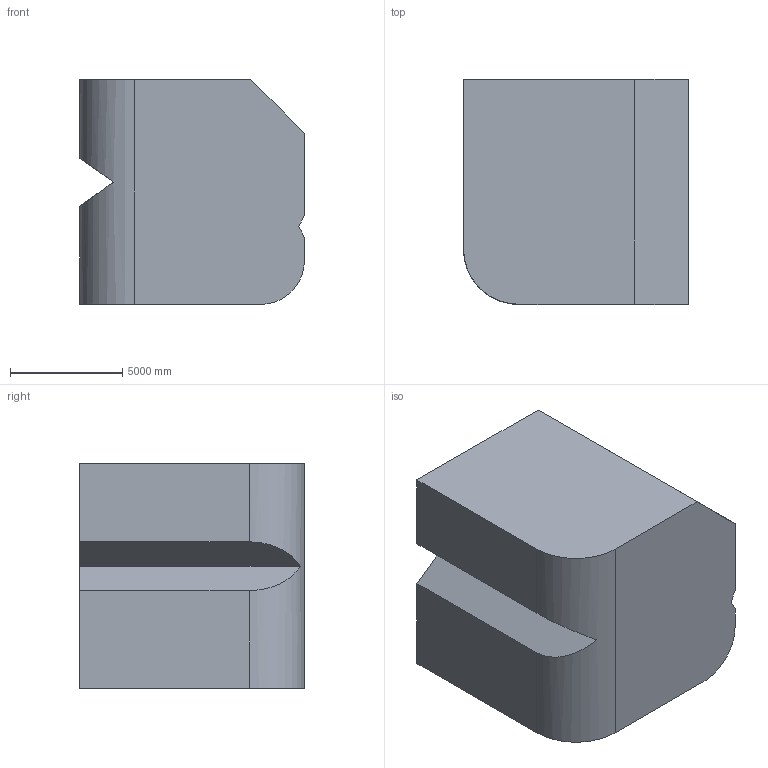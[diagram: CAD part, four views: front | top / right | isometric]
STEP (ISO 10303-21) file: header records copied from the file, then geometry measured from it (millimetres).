
FILE_DESCRIPTION (( 'STEP AP203' ), '1' );
FILE_NAME ('145.STEP', '2022-09-06T15:12:44', ( 'user' ), ( '' ), 'SwSTEP 2.0', 'SolidWorks 2021', '' );
FILE_SCHEMA (( 'CONFIG_CONTROL_DESIGN' ));
Length unit declared in the file: centimetre
Products named in the file (1): 145
Bounding box: 10000 x 10000 x 10000 mm (x, y, z)
Volume: 934607006628.6 mm3; surface area: 570137465.1 mm2
Topology: 1 solids, 1 shells, 15 faces, 39 edges, 26 vertices
Faces by surface type: plane 13, cylinder 2
Entity records: 534 total; most frequent: CARTESIAN_POINT 87, ORIENTED_EDGE 78, DIRECTION 73, EDGE_CURVE 39, VECTOR 33, LINE 33, VERTEX_POINT 26, AXIS2_PLACEMENT_3D 20
